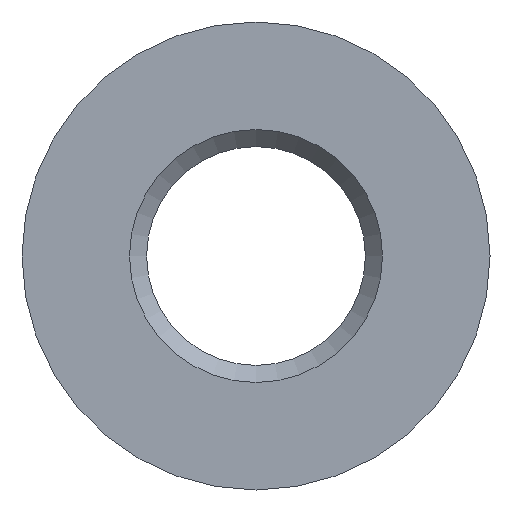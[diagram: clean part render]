
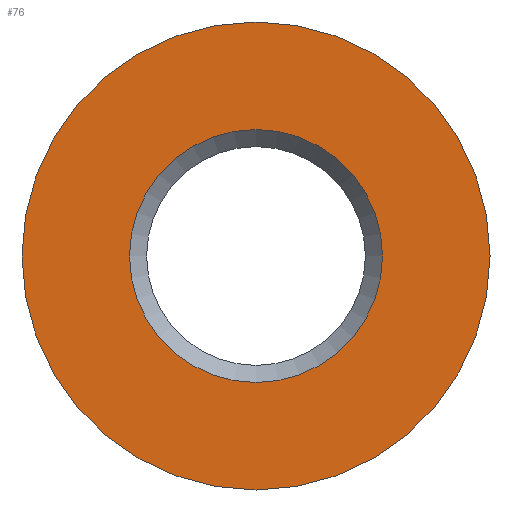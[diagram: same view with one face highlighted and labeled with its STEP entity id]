
A CAD part, front view. The second image highlights one B-rep face of the part: STEP entity #76.
In plain terms, the highlighted planar face has unit normal (0, -1, 0).
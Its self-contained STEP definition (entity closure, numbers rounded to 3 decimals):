
#76 = ADVANCED_FACE( '', ( #97, #98 ), #99, .F. );
#97 = FACE_BOUND( '', #142, .T. );
#98 = FACE_OUTER_BOUND( '', #143, .T. );
#99 = PLANE( '', #144 );
#142 = EDGE_LOOP( '', ( #193 ) );
#143 = EDGE_LOOP( '', ( #194 ) );
#144 = AXIS2_PLACEMENT_3D( '', #195, #196, #197 );
#193 = ORIENTED_EDGE( '', *, *, #319, .F. );
#194 = ORIENTED_EDGE( '', *, *, #320, .T. );
#195 = CARTESIAN_POINT( '', ( 18.5, 0., 0. ) );
#196 = DIRECTION( '', ( 0., 1., 0. ) );
#197 = DIRECTION( '', ( 0., 0., 1. ) );
#319 = EDGE_CURVE( '', #360, #360, #361, .T. );
#320 = EDGE_CURVE( '', #362, #362, #363, .T. );
#360 = VERTEX_POINT( '', #435 );
#361 = CIRCLE( '', #436, 10. );
#362 = VERTEX_POINT( '', #437 );
#363 = CIRCLE( '', #438, 18.5 );
#435 = CARTESIAN_POINT( '', ( 0., 0., -10. ) );
#436 = AXIS2_PLACEMENT_3D( '', #569, #570, #571 );
#437 = CARTESIAN_POINT( '', ( 0., 0., -18.5 ) );
#438 = AXIS2_PLACEMENT_3D( '', #572, #573, #574 );
#569 = CARTESIAN_POINT( '', ( 0., 0., 0. ) );
#570 = DIRECTION( '', ( 0., -1., 0. ) );
#571 = DIRECTION( '', ( 0., 0., -1. ) );
#572 = CARTESIAN_POINT( '', ( 0., 0., 0. ) );
#573 = DIRECTION( '', ( 0., -1., 0. ) );
#574 = DIRECTION( '', ( 0., 0., -1. ) );
